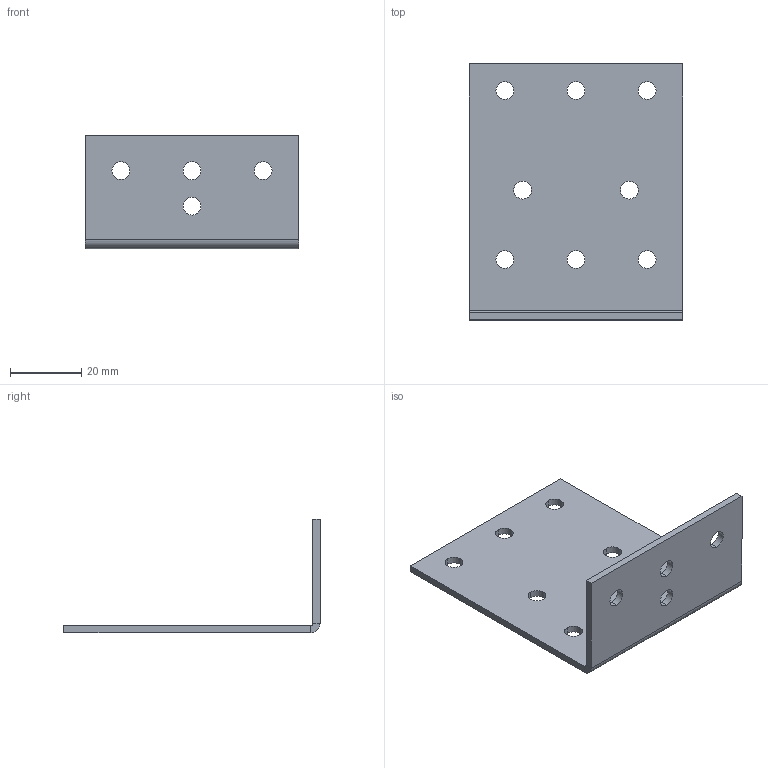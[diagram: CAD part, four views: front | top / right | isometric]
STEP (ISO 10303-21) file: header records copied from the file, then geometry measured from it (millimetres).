
FILE_DESCRIPTION (( 'STEP AP203' ), '1' );
FILE_NAME ('20000022.STEP', '2020-05-19T13:38:07', ( '' ), ( '' ), 'SwSTEP 2.0', 'SolidWorks 2013', '' );
FILE_SCHEMA (( 'CONFIG_CONTROL_DESIGN' ));
Length unit declared in the file: millimetre
Products named in the file (1): 20000022
Bounding box: 60 x 72 x 32 mm (x, y, z)
Volume: 11679.6 mm3; surface area: 12701.6 mm2
Topology: 1 solids, 1 shells, 38 faces, 100 edges, 64 vertices
Faces by surface type: cylinder 26, plane 12
Entity records: 1317 total; most frequent: DIRECTION 230, CARTESIAN_POINT 203, ORIENTED_EDGE 200, EDGE_CURVE 100, AXIS2_PLACEMENT_3D 91, VERTEX_POINT 64, EDGE_LOOP 62, CIRCLE 52
